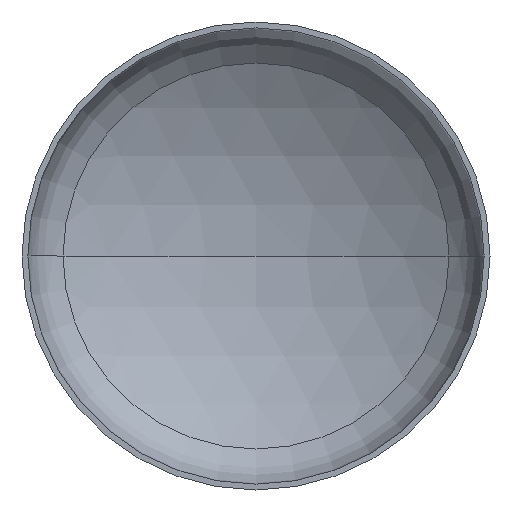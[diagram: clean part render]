
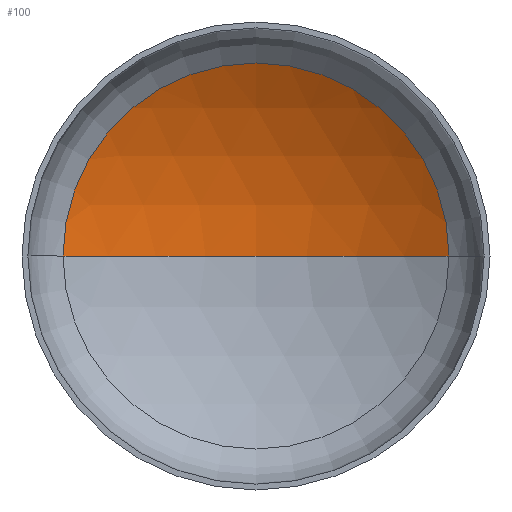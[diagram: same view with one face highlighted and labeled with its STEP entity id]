
A CAD part, front view. The second image highlights one B-rep face of the part: STEP entity #100.
In plain terms, the highlighted spherical face has radius 1600 mm.
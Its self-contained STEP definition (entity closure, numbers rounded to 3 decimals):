
#8 = AXIS2_PLACEMENT_3D ( 'NONE', #358, #58, #95 ) ;
#9 = AXIS2_PLACEMENT_3D ( 'NONE', #361, #135, #390 ) ;
#15 = EDGE_LOOP ( 'NONE', ( #43, #191, #147 ) ) ;
#19 = AXIS2_PLACEMENT_3D ( 'NONE', #121, #364, #218 ) ;
#32 = SPHERICAL_SURFACE ( 'NONE', #41, 1600. ) ;
#41 = AXIS2_PLACEMENT_3D ( 'NONE', #209, #280, #166 ) ;
#43 = ORIENTED_EDGE ( 'NONE', *, *, #336, .F. ) ;
#45 = CARTESIAN_POINT ( 'NONE',  ( 824.806, 340.635, 0. ) ) ;
#58 = DIRECTION ( 'NONE',  ( 0., 0., -1. ) ) ;
#64 = VERTEX_POINT ( 'NONE', #277 ) ;
#95 = DIRECTION ( 'NONE',  ( -1., 0., 0. ) ) ;
#96 = CIRCLE ( 'NONE', #19, 1600. ) ;
#100 = ADVANCED_FACE ( 'NONE', ( #238 ), #32, .F. ) ;
#121 = CARTESIAN_POINT ( 'NONE',  ( 0., -1030.385, 0. ) ) ;
#135 = DIRECTION ( 'NONE',  ( 0., -1., 0. ) ) ;
#147 = ORIENTED_EDGE ( 'NONE', *, *, #347, .T. ) ;
#149 = CARTESIAN_POINT ( 'NONE',  ( -824.806, 340.635, 0. ) ) ;
#166 = DIRECTION ( 'NONE',  ( -1., 0., 0. ) ) ;
#191 = ORIENTED_EDGE ( 'NONE', *, *, #351, .T. ) ;
#209 = CARTESIAN_POINT ( 'NONE',  ( 0., -1030.385, 0. ) ) ;
#214 = VERTEX_POINT ( 'NONE', #45 ) ;
#218 = DIRECTION ( 'NONE',  ( 1., 0., 0. ) ) ;
#238 = FACE_OUTER_BOUND ( 'NONE', #15, .T. ) ;
#259 = CIRCLE ( 'NONE', #9, 824.806 ) ;
#277 = CARTESIAN_POINT ( 'NONE',  ( 0., 569.615, 0. ) ) ;
#280 = DIRECTION ( 'NONE',  ( 0., 0., -1. ) ) ;
#308 = VERTEX_POINT ( 'NONE', #149 ) ;
#324 = CIRCLE ( 'NONE', #8, 1600. ) ;
#336 = EDGE_CURVE ( 'NONE', #64, #308, #96, .T. ) ;
#347 = EDGE_CURVE ( 'NONE', #214, #308, #259, .T. ) ;
#351 = EDGE_CURVE ( 'NONE', #64, #214, #324, .T. ) ;
#358 = CARTESIAN_POINT ( 'NONE',  ( 0., -1030.385, 0. ) ) ;
#361 = CARTESIAN_POINT ( 'NONE',  ( 0., 340.635, 0. ) ) ;
#364 = DIRECTION ( 'NONE',  ( 0., 0., 1. ) ) ;
#390 = DIRECTION ( 'NONE',  ( 1., 0., 0. ) ) ;
